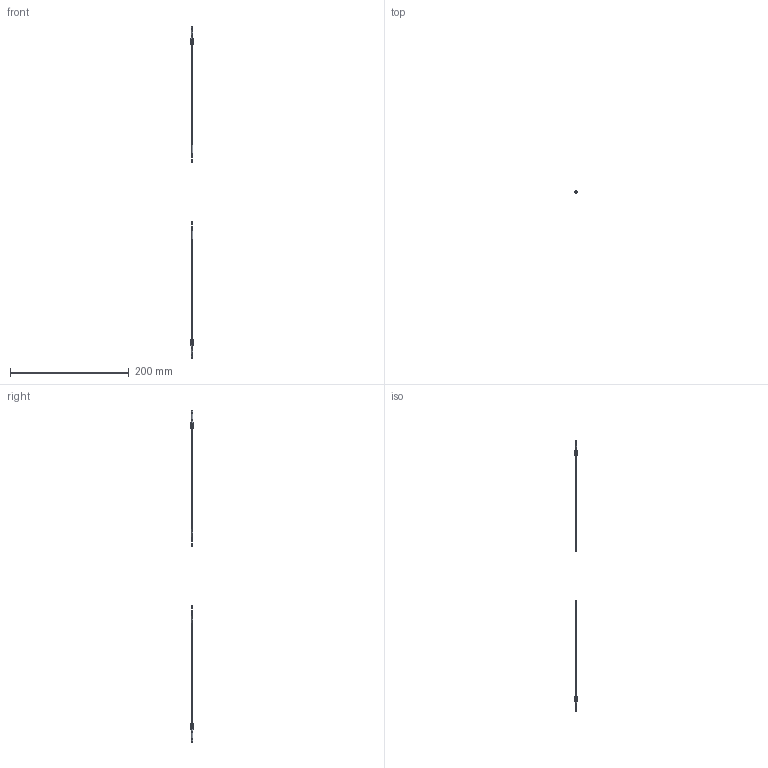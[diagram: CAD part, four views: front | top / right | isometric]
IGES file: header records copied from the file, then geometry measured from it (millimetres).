
Start section: SolidWorks IGES file using analytic representation for surfaces
Bounding box: 4 x 4 x 560 mm (x, y, z)
Surface area: 1985.1 mm2 (no closed solid volume)
Topology: 0 solids, 0 shells, 186 faces, 1624 edges, 1624 vertices
Faces by surface type: bspline 118, revolution 68
